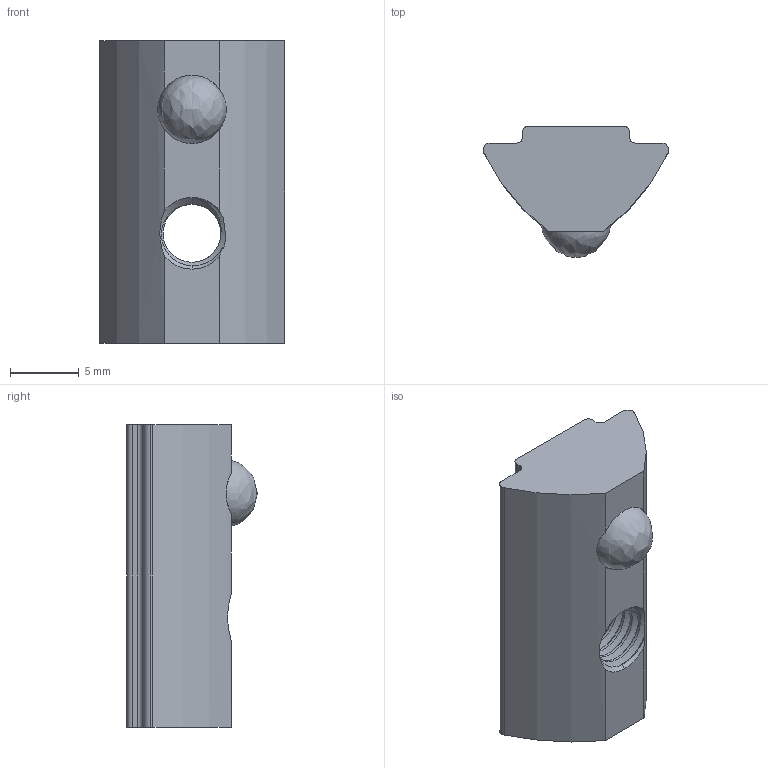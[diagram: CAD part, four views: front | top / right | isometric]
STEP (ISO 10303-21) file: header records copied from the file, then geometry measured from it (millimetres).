
FILE_DESCRIPTION (( 'STEP AP203' ), '1' );
FILE_NAME ('355031_Nutenstein 8 M5 VA einschwenkbar mit Kugel und Steg.step', '2022-11-24T09:08:34', ( '' ), ( '' ), 'SwSTEP 2.0', 'SolidWorks 2021', '' );
FILE_SCHEMA (( 'CONFIG_CONTROL_DESIGN' ));
Length unit declared in the file: millimetre
Products named in the file (1): 355031_Nutenstein 8 M5 VA einschwenkbar mit Kugel und Steg
Bounding box: 13.47 x 9.5 x 22 mm (x, y, z)
Volume: 1433.1 mm3; surface area: 1194.5 mm2
Topology: 1 solids, 2 shells, 55 faces, 154 edges, 102 vertices
Faces by surface type: cylinder 31, plane 11, bspline 8, cone 5
Entity records: 4275 total; most frequent: CARTESIAN_POINT 2929, ORIENTED_EDGE 308, DIRECTION 228, EDGE_CURVE 154, VERTEX_POINT 102, AXIS2_PLACEMENT_3D 87, EDGE_LOOP 56, ADVANCED_FACE 55
